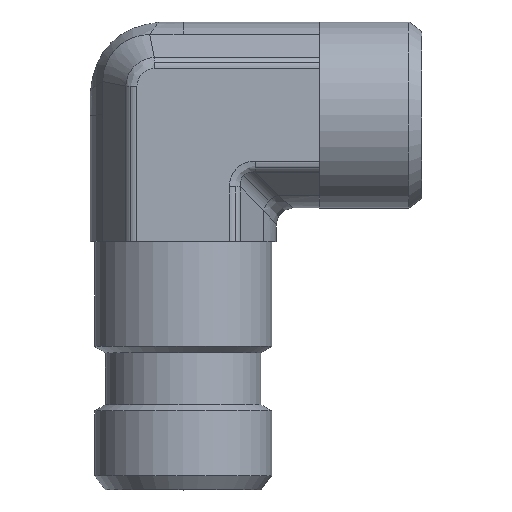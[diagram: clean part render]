
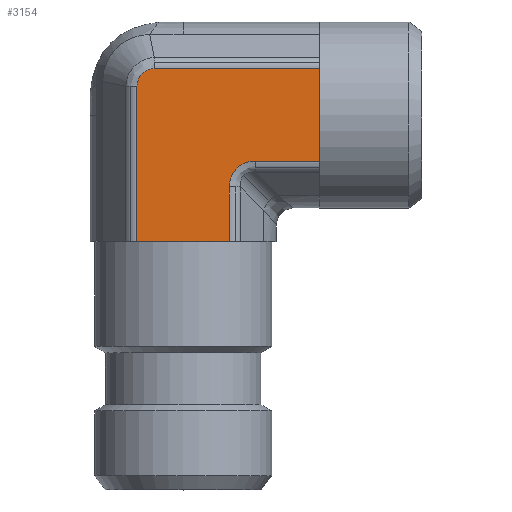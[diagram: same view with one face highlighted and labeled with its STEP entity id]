
A CAD part, top view. The second image highlights one B-rep face of the part: STEP entity #3154.
In plain terms, the highlighted planar face has unit normal (0, 0, 1) as drawn and (0, -1, 0) by its records, which use the part's own axes.
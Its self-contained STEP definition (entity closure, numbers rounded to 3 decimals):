
#319=CARTESIAN_POINT('',(3.958,-10.9,5.427));
#320=VERTEX_POINT('',#319);
#328=CARTESIAN_POINT('',(10.35,-10.9,5.427));
#329=VERTEX_POINT('',#328);
#330=CARTESIAN_POINT('',(3.958,-10.9,5.427));
#331=DIRECTION('',(1.0,0.0,0.0));
#332=VECTOR('',#331,6.392);
#333=LINE('',#330,#332);
#334=EDGE_CURVE('',#320,#329,#333,.T.);
#443=CARTESIAN_POINT('',(-9.927,-10.9,-3.382));
#444=VERTEX_POINT('',#443);
#452=CARTESIAN_POINT('',(-9.927,-10.9,16.0));
#453=VERTEX_POINT('',#452);
#454=CARTESIAN_POINT('',(-9.927,-10.9,-3.382));
#455=DIRECTION('',(0.0,0.0,1.0));
#456=VECTOR('',#455,19.382);
#457=LINE('',#454,#456);
#458=EDGE_CURVE('',#444,#453,#457,.T.);
#2018=CARTESIAN_POINT('',(10.35,-10.9,-5.427));
#2019=VERTEX_POINT('',#2018);
#2020=CARTESIAN_POINT('',(10.35,-10.9,-5.427));
#2021=DIRECTION('',(0.0,0.0,1.0));
#2022=VECTOR('',#2021,10.854);
#2023=LINE('',#2020,#2022);
#2024=EDGE_CURVE('',#2019,#329,#2023,.T.);
#2274=CARTESIAN_POINT('',(-4.5,-10.9,16.0));
#2275=VERTEX_POINT('',#2274);
#2340=CARTESIAN_POINT('',(-4.5,-10.9,16.0));
#2341=DIRECTION('',(-1.0,0.0,0.0));
#2342=VECTOR('',#2341,5.427);
#2343=LINE('',#2340,#2342);
#2344=EDGE_CURVE('',#2275,#453,#2343,.T.);
#2404=CARTESIAN_POINT('',(0.927,-10.9,16.0));
#2405=VERTEX_POINT('',#2404);
#2406=CARTESIAN_POINT('',(0.927,-10.9,16.0));
#2407=DIRECTION('',(-1.0,0.0,0.0));
#2408=VECTOR('',#2407,5.427);
#2409=LINE('',#2406,#2408);
#2410=EDGE_CURVE('',#2405,#2275,#2409,.T.);
#2839=CARTESIAN_POINT('',(-7.882,-10.9,-5.427));
#2840=VERTEX_POINT('',#2839);
#2848=CARTESIAN_POINT('',(-9.927,-10.9,-3.382));
#2849=CARTESIAN_POINT('',(-9.927,-10.9,-3.515));
#2850=CARTESIAN_POINT('',(-9.914,-10.9,-3.65));
#2851=CARTESIAN_POINT('',(-9.845,-10.9,-3.992));
#2852=CARTESIAN_POINT('',(-9.77,-10.9,-4.194));
#2853=CARTESIAN_POINT('',(-9.497,-10.9,-4.681));
#2854=CARTESIAN_POINT('',(-9.253,-10.9,-4.936));
#2855=CARTESIAN_POINT('',(-8.638,-10.9,-5.32));
#2856=CARTESIAN_POINT('',(-8.26,-10.9,-5.427));
#2857=CARTESIAN_POINT('',(-7.882,-10.9,-5.427));
#2858=B_SPLINE_CURVE_WITH_KNOTS('',3,(#2848,#2849,#2850,#2851,#2852,#2853,#2854,#2855,#2856,#2857),.UNSPECIFIED.,.F.,.U.,(4,2,2,2,4),(-3.195,-2.796,-2.157,-1.134,0.0),.UNSPECIFIED.);
#2859=EDGE_CURVE('',#2840,#444,#2858,.F.);
#2886=CARTESIAN_POINT('',(10.35,-10.9,-5.427));
#2887=DIRECTION('',(-1.0,0.0,0.0));
#2888=VECTOR('',#2887,18.232);
#2889=LINE('',#2886,#2888);
#2890=EDGE_CURVE('',#2019,#2840,#2889,.T.);
#3022=CARTESIAN_POINT('',(0.927,-10.9,8.458));
#3023=VERTEX_POINT('',#3022);
#3024=CARTESIAN_POINT('',(0.927,-10.9,16.0));
#3025=DIRECTION('',(0.0,0.0,-1.0));
#3026=VECTOR('',#3025,7.542);
#3027=LINE('',#3024,#3026);
#3028=EDGE_CURVE('',#2405,#3023,#3027,.T.);
#3111=CARTESIAN_POINT('',(4.969,-10.9,9.469));
#3112=DIRECTION('',(0.,-1.0,0.));
#3113=DIRECTION('',(-0.707,0.,-0.707));
#3114=AXIS2_PLACEMENT_3D('',#3111,#3112,#3113);
#3115=ELLIPSE('',#3114,4.518,3.5);
#3116=EDGE_CURVE('',#3023,#320,#3115,.T.);
#3138=CARTESIAN_POINT('',(-4.5,-10.9,-3.175));
#3139=DIRECTION('',(0.0,-1.0,0.0));
#3140=DIRECTION('',(0.0,0.0,-1.0));
#3141=AXIS2_PLACEMENT_3D('',#3138,#3139,#3140);
#3142=PLANE('',#3141);
#3143=ORIENTED_EDGE('',*,*,#2024,.T.);
#3144=ORIENTED_EDGE('',*,*,#334,.F.);
#3145=ORIENTED_EDGE('',*,*,#3116,.F.);
#3146=ORIENTED_EDGE('',*,*,#3028,.F.);
#3147=ORIENTED_EDGE('',*,*,#2410,.T.);
#3148=ORIENTED_EDGE('',*,*,#2344,.T.);
#3149=ORIENTED_EDGE('',*,*,#458,.F.);
#3150=ORIENTED_EDGE('',*,*,#2859,.F.);
#3151=ORIENTED_EDGE('',*,*,#2890,.F.);
#3152=EDGE_LOOP('',(#3143,#3144,#3145,#3146,#3147,#3148,#3149,#3150,#3151));
#3153=FACE_OUTER_BOUND('',#3152,.T.);
#3154=ADVANCED_FACE('',(#3153),#3142,.T.);
